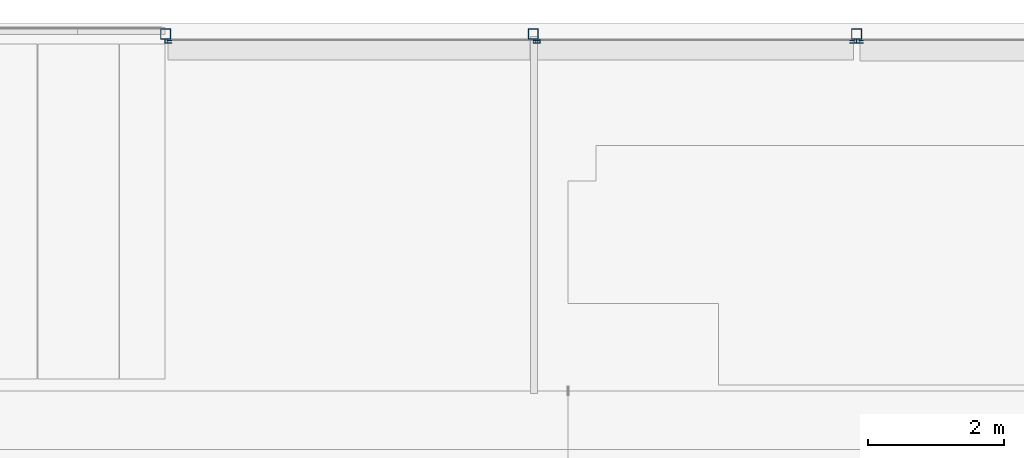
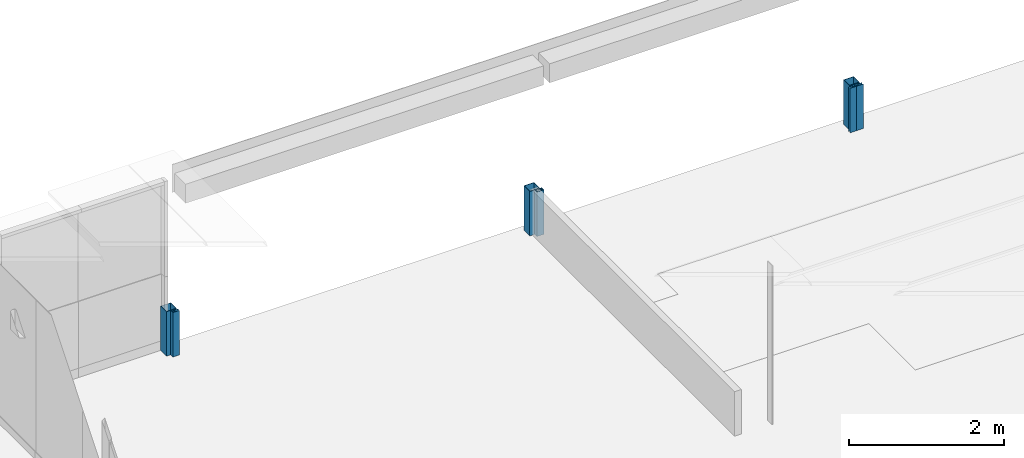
# One storey, part 2 of 26: 8 columns.
"""IFC2X3 building model written with IfcOpenShell, lengths in millimetres."""

import ifcopenshell
import ifcopenshell.guid

model = None  # the IFC model being written
_history = None  # IfcOwnerHistory: only IFC2X3 demands one
_inside = {}  # id of a spatial element -> (the spatial element, [elements in it])
_under = {}  # id of a project, library or spatial element -> (it, [spatial elements below it])
_declared = {}  # id of a project -> (the project, [libraries it declares])
_typed = {}  # id of a type object -> (the type object, [elements of that type])
_made_of = {}  # id of a material, layer set ... -> (it, [elements and type objects made of it])


def new_model(schema):
    """Start an empty IFC model of exactly this schema.

    Asked for "IFC4X3", IfcOpenShell would pick the latest addendum, in which some entities
    have other attributes; the version numbers below select the first issue.
    IFC2X3 requires an IfcOwnerHistory on every rooted entity: one is made here for all.
    """
    global model, _history
    if schema == "IFC4X3":
        model = ifcopenshell.file(schema_version=(4, 3, 0, 0))
    else:
        model = ifcopenshell.file(schema=schema)
    _inside.clear()
    _under.clear()
    _declared.clear()
    _typed.clear()
    _made_of.clear()
    _history = None
    if model.schema == "IFC2X3":
        org = make("IfcOrganization", Name="unknown")
        user = make(
            "IfcPersonAndOrganization",
            ThePerson=make("IfcPerson", FamilyName="unknown"),
            TheOrganization=org,
        )
        app = make(
            "IfcApplication",
            ApplicationDeveloper=org,
            Version="unknown",
            ApplicationFullName="unknown",
            ApplicationIdentifier="unknown",
        )
        _history = make(
            "IfcOwnerHistory",
            OwningUser=user,
            OwningApplication=app,
            ChangeAction="ADDED",
            CreationDate=0,
        )
    return model


def make(cls, **values):
    """One entity of the class cls with the attributes given. An attribute that is None is left unset."""
    return model.create_entity(
        cls, **{name: value for name, value in values.items() if value is not None}
    )


def entity(cls, *values):
    """Any entity or typed value of the class cls, its attributes in the order of the schema. None: left unset."""
    e = model.create_entity(cls)
    for i, value in enumerate(values):
        if value is not None:
            e[i] = value
    return e


def rooted(cls, **values):
    """An entity with a GlobalId (a new one), such as an element, a storey or a relation."""
    return make(cls, GlobalId=ifcopenshell.guid.new(), OwnerHistory=_history, **values)


def si_unit(unit_type, name, prefix=None):
    """IfcSIUnit, for example si_unit("LENGTHUNIT", "METRE", prefix="MILLI")."""
    return make("IfcSIUnit", UnitType=unit_type, Prefix=prefix, Name=name)


def converted_unit(unit_type, name, factor, base, dimensions=None, offset=None):
    """IfcConversionBasedUnit, such as the inch: factor (a typed value) times the base unit."""
    return make(
        "IfcConversionBasedUnit"
        if offset is None
        else "IfcConversionBasedUnitWithOffset",
        ConversionOffset=offset,
        Dimensions=None
        if dimensions is None
        else entity("IfcDimensionalExponents", *dimensions),
        UnitType=unit_type,
        Name=name,
        ConversionFactor=make(
            "IfcMeasureWithUnit", ValueComponent=factor, UnitComponent=base
        ),
    )


def derived_unit(unit_type, elements):
    """IfcDerivedUnit: a product of units, each with its exponent."""
    return make(
        "IfcDerivedUnit",
        Elements=[
            make("IfcDerivedUnitElement", Unit=unit, Exponent=power)
            for unit, power in elements
        ],
        UnitType=unit_type,
    )


def assignment(units):
    """IfcUnitAssignment: the units of a project."""
    return None if units is None else make("IfcUnitAssignment", Units=units)


def point(xyz):
    """IfcCartesianPoint."""
    return None if xyz is None else make("IfcCartesianPoint", Coordinates=xyz)


def direction(xyz):
    """IfcDirection."""
    return None if xyz is None else make("IfcDirection", DirectionRatios=xyz)


def frame(location, z_axis=None, x_axis=None):
    """IfcAxis2Placement3D, a coordinate frame: its origin and axes. An axis left out is left unset."""
    return make(
        "IfcAxis2Placement3D",
        Location=point(location),
        Axis=direction(z_axis),
        RefDirection=direction(x_axis),
    )


def origin():
    """The frame at (0, 0, 0) with its axes left unset."""
    return frame((0.0, 0.0, 0.0))


def origin_with_axes():
    """The frame at (0, 0, 0) with the z axis (0, 0, 1) and the x axis (1, 0, 0) written out."""
    return frame((0.0, 0.0, 0.0), z_axis=(0.0, 0.0, 1.0), x_axis=(1.0, 0.0, 0.0))


def place(relative_to, where):
    """IfcLocalPlacement: puts the frame where relative to a parent placement (None: the world)."""
    return make(
        "IfcLocalPlacement", PlacementRelTo=relative_to, RelativePlacement=where
    )


def context(
    kind, dimensions, precision=None, world=None, true_north=None, identifier=None
):
    """IfcGeometricRepresentationContext, for example the 3D "Model" context."""
    return make(
        "IfcGeometricRepresentationContext",
        ContextIdentifier=identifier,
        ContextType=kind,
        CoordinateSpaceDimension=dimensions,
        Precision=precision,
        WorldCoordinateSystem=world,
        TrueNorth=true_north,
    )


def subcontext(parent, identifier, kind, view, scale=None):
    """IfcGeometricRepresentationSubContext, for example "Body" below "Model"."""
    return make(
        "IfcGeometricRepresentationSubContext",
        ContextIdentifier=identifier,
        ContextType=kind,
        ParentContext=parent,
        TargetScale=scale,
        TargetView=view,
    )


def project(units=None, contexts=None):
    """IfcProject with its units and contexts."""
    return rooted(
        "IfcProject",
        Name="project",
        RepresentationContexts=contexts,
        UnitsInContext=assignment(units),
    )


def spatial(cls, under=None, at=None, **own):
    """A site, building, storey or space (cls), placed at a placement, below another one or the project."""
    s = rooted(cls, ObjectPlacement=at, **own)
    if under is not None:
        _under.setdefault(under.id(), (under, []))[1].append(s)
    return s


def polyline(points):
    """IfcPolyline through the points."""
    return make("IfcPolyline", Points=[point(p) for p in points])


def outline(outer, holes=None, kind="AREA"):
    """IfcArbitraryClosedProfileDef: a profile drawn as a closed curve; with holes, ...WithVoids."""
    if holes is None:
        return make("IfcArbitraryClosedProfileDef", ProfileType=kind, OuterCurve=outer)
    return make(
        "IfcArbitraryProfileDefWithVoids",
        ProfileType=kind,
        OuterCurve=outer,
        InnerCurves=holes,
    )


def extrude(swept, where, along, depth):
    """IfcExtrudedAreaSolid: the profile swept, set in the frame where, extruded along a direction by depth."""
    return make(
        "IfcExtrudedAreaSolid",
        SweptArea=swept,
        Position=where,
        ExtrudedDirection=direction(along),
        Depth=depth,
    )


def faces_of(points, faces, orient=None, outer=None):
    """IfcFace entities. A face is a list of loops; a loop is a list of indices into points, from 0.

    orient and outer hold one flag for each loop. By default every Orientation is true, the
    first loop of a face is its IfcFaceOuterBound and the others are IfcFaceBound.
    """
    made = []
    for i, loops in enumerate(faces):
        bounds = []
        for j, loop in enumerate(loops):
            is_outer = j == 0 if outer is None else outer[i][j]
            bounds.append(
                make(
                    "IfcFaceOuterBound" if is_outer else "IfcFaceBound",
                    Bound=make("IfcPolyLoop", Polygon=[points[k] for k in loop]),
                    Orientation=True if orient is None else orient[i][j],
                )
            )
        made.append(make("IfcFace", Bounds=bounds))
    return made


def faceted_brep(points, faces, orient=None, outer=None, voids=None):
    """IfcFacetedBrep: a solid bounded by flat faces; with voids (closed shells), ...WithVoids."""
    shared = [point(p) for p in points]
    hull = make("IfcClosedShell", CfsFaces=faces_of(shared, faces, orient, outer))
    if voids is None:
        return make("IfcFacetedBrep", Outer=hull)
    return make(
        "IfcFacetedBrepWithVoids",
        Outer=hull,
        Voids=[
            make(cls, CfsFaces=faces_of(shared, fs, o, b)) for cls, fs, o, b in voids
        ],
    )


def shape(context_of_items, identifier, shape_type, items):
    """IfcShapeRepresentation: the items that make up one representation, for example the "Body"."""
    return make(
        "IfcShapeRepresentation",
        ContextOfItems=context_of_items,
        RepresentationIdentifier=identifier,
        RepresentationType=shape_type,
        Items=items,
    )


def source(mapping_origin, context_of_items, identifier, shape_type, items):
    """IfcRepresentationMap: a shape defined once, which mapped items show again and again."""
    return make(
        "IfcRepresentationMap",
        MappingOrigin=mapping_origin,
        MappedRepresentation=shape(context_of_items, identifier, shape_type, items),
    )


def transform(
    local_origin,
    x_axis=None,
    y_axis=None,
    z_axis=None,
    scale=None,
    scale2=None,
    scale3=None,
    uniform=True,
):
    """IfcCartesianTransformationOperator3D, or its non-uniform kind. x_axis, y_axis, z_axis: its Axis1, 2, 3."""
    if uniform:
        return make(
            "IfcCartesianTransformationOperator3D",
            Axis1=direction(x_axis),
            Axis2=direction(y_axis),
            LocalOrigin=point(local_origin),
            Scale=scale,
            Axis3=direction(z_axis),
        )
    return make(
        "IfcCartesianTransformationOperator3DnonUniform",
        Axis1=direction(x_axis),
        Axis2=direction(y_axis),
        LocalOrigin=point(local_origin),
        Scale=scale,
        Axis3=direction(z_axis),
        Scale2=scale2,
        Scale3=scale3,
    )


def mapped(mapping_source, mapping_target):
    """IfcMappedItem: shows the shape of a source again, moved by a transform."""
    return make(
        "IfcMappedItem", MappingSource=mapping_source, MappingTarget=mapping_target
    )


def material(Name=None, Category=None):
    """IfcMaterial."""
    return make("IfcMaterial", Name=Name, Category=Category)


def made_of(thing, what):
    """Note that an element or type object is made of a material, layer set ...; save() writes the relation."""
    if what is not None:
        _made_of.setdefault(what.id(), (what, []))[1].append(thing)
    return thing


def type_object(cls, material=None, **own):
    """A type object (cls), such as IfcWallType, which elements share."""
    return made_of(rooted(cls, **own), material)


def element(
    cls,
    number,
    at=None,
    inside=None,
    cuts=None,
    type_object=None,
    material=None,
    context=None,
    identifier="Body",
    shape_type=None,
    held_by="IfcProductDefinitionShape",
    body=None,
    shapes=None,
    **own,
):
    """One element of the class cls, such as IfcWall. Its Tag is "e" and its number.

    at: its placement. inside: the storey or other place that contains it. cuts: it is an
    opening in that element (IfcRelVoidsElement). A single representation is given by context,
    identifier, shape_type and body (its items); several are given by shapes. held_by: the class
    of the entity that holds the representations. save() writes the other relations.
    """
    e = rooted(cls, Tag="e%d" % number, ObjectPlacement=at, **own)
    if body is not None:
        shapes = [shape(context, identifier, shape_type, body)]
    if shapes is not None:
        e.Representation = make(held_by, Representations=shapes)
    if inside is not None:
        _inside.setdefault(inside.id(), (inside, []))[1].append(e)
    if cuts is not None:
        rooted(
            "IfcRelVoidsElement", RelatingBuildingElement=cuts, RelatedOpeningElement=e
        )
    if type_object is not None:
        _typed.setdefault(type_object.id(), (type_object, []))[1].append(e)
    return made_of(e, material)


def aggregate(whole, parts):
    """IfcRelAggregates: a whole, such as a stair, and the parts it consists of."""
    return rooted("IfcRelAggregates", RelatingObject=whole, RelatedObjects=parts)


def save(model, path):
    """Write the relations noted so far, then the file.

    IfcRelAggregates (storeys below a building ...), IfcRelContainedInSpatialStructure (elements
    in a storey), IfcRelDefinesByType, IfcRelAssociatesMaterial and IfcRelDeclares: one each for
    every whole, place, type object, material and project.
    """
    for whole, parts in _under.values():
        aggregate(whole, parts)
    for where, things in _inside.values():
        rooted(
            "IfcRelContainedInSpatialStructure",
            RelatedElements=things,
            RelatingStructure=where,
        )
    for kind, things in _typed.values():
        rooted("IfcRelDefinesByType", RelatedObjects=things, RelatingType=kind)
    for what, things in _made_of.values():
        rooted("IfcRelAssociatesMaterial", RelatedObjects=things, RelatingMaterial=what)
    for by, libraries in _declared.values():
        rooted("IfcRelDeclares", RelatingContext=by, RelatedDefinitions=libraries)
    model.write(path)


model = new_model("IFC2X3")

# Units and contexts
model_context = context("Model", 3, precision=0.01, world=frame((0.0, 4.29681676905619e-09, 0.0)), true_north=direction((4.01073788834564e-13, 1.0)))
plan_context = context("Plan", 3, precision=0.01, world=frame((0.0, 4.29681676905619e-09, 0.0)), true_north=direction((4.01073788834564e-13, 1.0)))
body_context = subcontext(model_context, "Body", "Model", "MODEL_VIEW")
ifc_project = project(units=[converted_unit("PLANEANGLEUNIT", "DEGREE", entity("IfcPositiveLengthMeasure", 0.0174532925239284), si_unit("PLANEANGLEUNIT", "RADIAN"), dimensions=[0, 0, 0, 0, 0, 0, 0]), si_unit("AREAUNIT", "SQUARE_METRE"), si_unit("LENGTHUNIT", "METRE", prefix="MILLI"), si_unit("MASSUNIT", "GRAM", prefix="KILO"), si_unit("POWERUNIT", "WATT"), si_unit("PRESSUREUNIT", "PASCAL", prefix="KILO"), si_unit("FORCEUNIT", "NEWTON", prefix="KILO"), si_unit("ELECTRICVOLTAGEUNIT", "VOLT"), si_unit("ELECTRICCURRENTUNIT", "AMPERE"), si_unit("THERMODYNAMICTEMPERATUREUNIT", "DEGREE_CELSIUS"), si_unit("TIMEUNIT", "SECOND"), si_unit("VOLUMEUNIT", "CUBIC_METRE"), derived_unit("LINEARVELOCITYUNIT", [(si_unit("LENGTHUNIT", "METRE"), 1), (si_unit("TIMEUNIT", "SECOND"), -1)]), derived_unit("VOLUMETRICFLOWRATEUNIT", [(si_unit("VOLUMEUNIT", "CUBIC_METRE"), 1), (si_unit("TIMEUNIT", "SECOND"), -1)]), derived_unit("THERMALTRANSMITTANCEUNIT", [(si_unit("POWERUNIT", "WATT"), 1), (si_unit("THERMODYNAMICTEMPERATUREUNIT", "KELVIN"), -1), (si_unit("AREAUNIT", "SQUARE_METRE"), -1)]), derived_unit("SOUNDPRESSUREUNIT", [(si_unit("PRESSUREUNIT", "PASCAL"), 1)])], contexts=[model_context, plan_context])

# Site, building, storey
site_placement = place(None, origin_with_axes())
site = spatial("IfcSite", under=ifc_project, at=site_placement, Name="ENGM", CompositionType="ELEMENT")
building_placement = place(site_placement, origin_with_axes())
building = spatial("IfcBuilding", under=site, at=building_placement, Name="TG", CompositionType="ELEMENT")
storey_placement = place(building_placement, frame((0.0, 0.0, 210200.0), z_axis=(0.0, 0.0, 1.0), x_axis=(1.0, 0.0, 0.0)))
storey = spatial("IfcBuildingStorey", under=building, at=storey_placement, Name="Nivå F - 0,7 m", CompositionType="ELEMENT", Elevation=210200.0)

# Columns
ifc_material = material(Name="_NSW Stål")
column_type_1 = type_object("IfcColumnType", Name="A243 - Rullegardinskinner:A243 - Portskinne Trav Val Innl", PredefinedType="COLUMN", material=ifc_material)
shared_shape_1 = source(origin(), body_context, "Body", "Brep", [
    faceted_brep([(-20.0, 100.0, 210200.0), (-14.0, 100.0, 210200.0), (-14.0, 90.0, 210200.0), (-17.0, 90.0, 210200.0), (-17.0, 38.0, 210200.0), (17.0, 38.0, 210200.0), (17.0, 90.0, 210200.0), (14.0, 90.0, 210200.0), (14.0, 100.0, 210200.0), (20.0, 100.0, 210200.0), (20.0, 0.0, 210200.0), (-40.0, 0.0, 210200.0), (-40.0, 38.0, 210200.0), (-20.0, 38.0, 210200.0), (-37.0, 3.0, 210200.0), (17.0, 3.0, 210200.0), (17.0, 35.0, 210200.0), (-37.0, 35.0, 210200.0), (-20.0, 100.0, 210900.0), (-14.0, 100.0, 210900.0), (-14.0, 90.0, 210900.0), (-17.0, 90.0, 210900.0), (-17.0, 38.0, 210900.0), (17.0, 38.0, 210900.0), (17.0, 90.0, 210900.0), (14.0, 90.0, 210900.0), (14.0, 100.0, 210900.0), (20.0, 100.0, 210900.0), (20.0, 0.0, 210900.0), (-40.0, 0.0, 210900.0), (-40.0, 38.0, 210900.0), (-20.0, 38.0, 210900.0), (-37.0, 3.0, 210900.0), (17.0, 3.0, 210900.0), (17.0, 35.0, 210900.0), (-37.0, 35.0, 210900.0)], [[[0, 1, 2, 3, 4, 5, 6, 7, 8, 9, 10, 11, 12, 13], [14, 15, 16, 17]], [[1, 0, 18, 19]], [[2, 1, 19, 20]], [[3, 2, 20, 21]], [[4, 3, 21, 22]], [[5, 4, 22, 23]], [[6, 5, 23, 24]], [[7, 6, 24, 25]], [[8, 7, 25, 26]], [[9, 8, 26, 27]], [[10, 9, 27, 28]], [[11, 10, 28, 29]], [[12, 11, 29, 30]], [[13, 12, 30, 31]], [[0, 13, 31, 18]], [[15, 14, 32, 33]], [[16, 15, 33, 34]], [[17, 16, 34, 35]], [[14, 17, 35, 32]], [[19, 18, 31, 30, 29, 28, 27, 26, 25, 24, 23, 22, 21, 20], [33, 32, 35, 34]]]),
])
for number, where, z_axis, x_axis, name in (
    (1, (334073.454194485, 467225.1541288, -210200.0), (0.0, 0.0, 1.0), (0.0, -1.0, 0.0), "A243 - Rullegardinskinner:A243 - Portskinne Trav Val Innl"),
    (2, (344244.484617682, 467225.1541288, -210200.0), (0.0, 0.0, 1.0), (0.0, -1.0, 0.0), "A243 - Rullegardinskinner:A243 - Portskinne Trav Val Innl"),
    (3, (339489.484617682, 467225.1541288, -210200.0), (0.0, 0.0, 1.0), (0.0, -1.0, 0.0), "A243 - Rullegardinskinner:A243 - Portskinne Trav Val Innl"),
):
    element("IfcColumn", number, at=place(storey_placement, frame(where, z_axis=z_axis, x_axis=x_axis)), inside=storey, type_object=column_type_1, material=ifc_material, Name=name, ObjectType="A243 - Rullegardinskinner:A243 - Portskinne Trav Val Innl", context=body_context, shape_type="MappedRepresentation", body=[
        mapped(shared_shape_1, transform((0.0, 0.0, 0.0), scale=1.0)),
    ])
column_type_2 = type_object("IfcColumnType", Name="B222 - HUP (Oppsveiset):B222 - HUP oppsveiset - 150 x 150 x 6 mm 2", PredefinedType="COLUMN", material=ifc_material)
shared_shape_2 = source(origin(), body_context, "Body", "SweptSolid", [
    extrude(outline(polyline([(-75.0, -75.0), (75.0, -75.0), (75.0, 75.0), (-75.0, 75.0), (-75.0, -75.0)]), holes=[polyline([(-69.0, -69.0), (-69.0, 69.0), (69.0, 69.0), (69.0, -69.0), (-69.0, -69.0)])]), frame((0.0, 0.0, 210200.0), z_axis=(0.0, 0.0, 1.0), x_axis=(0.0, 1.0, 0.0)), (0.0, 0.0, 1.0), 700.000000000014),
])
for number, where, z_axis, x_axis in (
    (4, (334084.895898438, 467339.999999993, -210200.0), (0.0, 0.0, 1.0), (1.0, 0.0, 0.0)),
    (5, (339489.895898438, 467339.999999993, -210200.0), (0.0, 0.0, 1.0), (1.0, 0.0, 0.0)),
    (6, (344244.895898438, 467339.999999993, -210200.0), (0.0, 0.0, 1.0), (1.0, 0.0, 0.0)),
):
    element("IfcColumn", number, at=place(storey_placement, frame(where, z_axis=z_axis, x_axis=x_axis)), inside=storey, type_object=column_type_2, material=ifc_material, Name="B222 - HUP (Oppsveiset):B222 - HUP oppsveiset - 150 x 150 x 6 mm 2", ObjectType="B222 - HUP (Oppsveiset):B222 - HUP oppsveiset - 150 x 150 x 6 mm 2", context=body_context, shape_type="MappedRepresentation", body=[
        mapped(shared_shape_2, transform((0.0, 0.0, 0.0), scale=1.0)),
    ])
column_type_3 = type_object("IfcColumnType", Name="A243 - Rullegardinskinner:A243 - Portskinne Trav Val Innl", PredefinedType="COLUMN", material=ifc_material)
shared_shape_3 = source(origin(), body_context, "Body", "Brep", [
    faceted_brep([(-20.0, -100.0, 210200.0), (-20.0, -38.0, 210200.0), (-40.0, -38.0, 210200.0), (-40.0, 0.0, 210200.0), (20.0, 0.0, 210200.0), (20.0, -100.0, 210200.0), (14.0, -100.0, 210200.0), (14.0, -90.0, 210200.0), (17.0, -90.0, 210200.0), (17.0, -38.0, 210200.0), (-17.0, -38.0, 210200.0), (-17.0, -90.0, 210200.0), (-14.0, -90.0, 210200.0), (-14.0, -100.0, 210200.0), (-37.0, -3.0, 210200.0), (-37.0, -35.0, 210200.0), (17.0, -35.0, 210200.0), (17.0, -3.0, 210200.0), (-14.0, -100.0, 210900.0), (-20.0, -100.0, 210900.0), (-14.0, -90.0, 210900.0), (-17.0, -90.0, 210900.0), (-17.0, -38.0, 210900.0), (17.0, -38.0, 210900.0), (17.0, -90.0, 210900.0), (14.0, -90.0, 210900.0), (14.0, -100.0, 210900.0), (20.0, -100.0, 210900.0), (20.0, 0.0, 210900.0), (-40.0, 0.0, 210900.0), (-40.0, -38.0, 210900.0), (-20.0, -38.0, 210900.0), (17.0, -3.0, 210900.0), (-37.0, -3.0, 210900.0), (17.0, -35.0, 210900.0), (-37.0, -35.0, 210900.0)], [[[0, 1, 2, 3, 4, 5, 6, 7, 8, 9, 10, 11, 12, 13], [14, 15, 16, 17]], [[0, 13, 18, 19]], [[13, 12, 20, 18]], [[12, 11, 21, 20]], [[11, 10, 22, 21]], [[10, 9, 23, 22]], [[9, 8, 24, 23]], [[8, 7, 25, 24]], [[7, 6, 26, 25]], [[6, 5, 27, 26]], [[5, 4, 28, 27]], [[4, 3, 29, 28]], [[3, 2, 30, 29]], [[2, 1, 31, 30]], [[1, 0, 19, 31]], [[14, 17, 32, 33]], [[17, 16, 34, 32]], [[16, 15, 35, 34]], [[15, 14, 33, 35]], [[19, 18, 20, 21, 22, 23, 24, 25, 26, 27, 28, 29, 30, 31], [33, 32, 34, 35]]]),
])
for number, where, z_axis, x_axis, name in (
    (7, (344244.484617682, 467225.1541288, -210200.0), (0.0, 0.0, 1.0), (0.0, -1.0, 0.0), "A243 - Rullegardinskinner:A243 - Portskinne Trav Val Innl"),
    (8, (339590.484617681, 467225.1541288, -210200.0), (0.0, 0.0, 1.0), (0.0, -1.0, 0.0), "A243 - Rullegardinskinner:A243 - Portskinne Trav Val Innl"),
):
    element("IfcColumn", number, at=place(storey_placement, frame(where, z_axis=z_axis, x_axis=x_axis)), inside=storey, type_object=column_type_3, material=ifc_material, Name=name, ObjectType="A243 - Rullegardinskinner:A243 - Portskinne Trav Val Innl", context=body_context, shape_type="MappedRepresentation", body=[
        mapped(shared_shape_3, transform((0.0, 0.0, 0.0), scale=1.0)),
    ])

save(model, "model.ifc")
